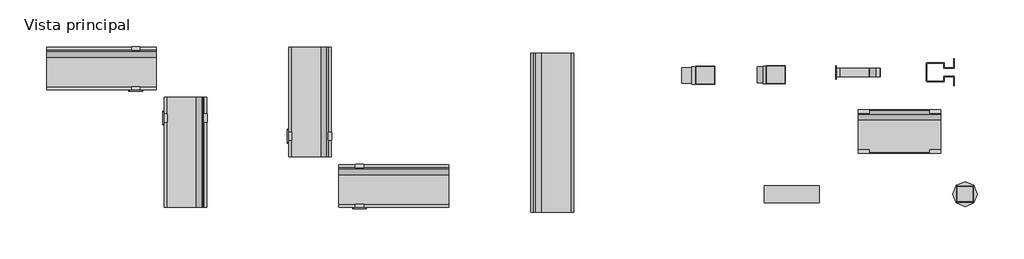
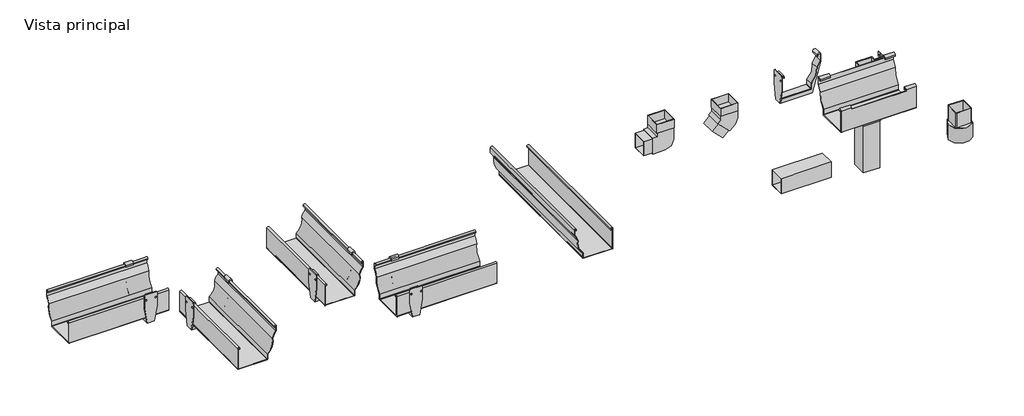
# One storey, incomplete: 17 pipe fittings.
"""IFC4 building model written with IfcOpenShell, lengths in millimetres."""

from ifc_helpers import new_model, si_unit, origin, place, context, project, spatial, transform, mapped, element, save
from components import var_139db1cd, var_9f9eca47, var_91e2d34d, var_6c80722c, var_38eae97e, var_41a2b926, var_7c6a0a23, var_3d1434b5, var_5ad48b10

model = new_model("IFC4")

# Units and contexts
model_context = context("Model", 3, world=origin())
ifc_project = project(units=[si_unit("LENGTHUNIT", "METRE", prefix="MILLI")], contexts=[model_context])

# Site, building, storey
site = spatial("IfcSite", under=ifc_project)
building = spatial("IfcBuilding", under=site)
storey = spatial("IfcBuildingStorey", under=building, Name="Vista principal", Elevation=0.0)

# Pipe fittings
placement = place(None, origin())
var_shape = var_139db1cd(model_context)
element("IfcPipeFitting", 1, ObjectType="PlastigamaWavin_Unionesdetubería_CanalesyBajantesZ_NoUsarUnióndeCanalBajante : Var.", at=placement, inside=storey, context=model_context, shape_type="MappedRepresentation", body=[
    mapped(var_shape, transform((4456.5998132, 1644.9188213, 0.0), x_axis=(0.0, 1.0, 0.0), y_axis=(-1.0, 0.0, 0.0), z_axis=(0.0, 0.0, 1.0))),
])
var_2_shape = var_9f9eca47(model_context)
element("IfcPipeFitting", 2, ObjectType="PlastigamaWavin_Unionesdetubería_CanalesyBajantes_Codo45deBajante : Var.", at=placement, inside=storey, context=model_context, shape_type="MappedRepresentation", body=[
    mapped(var_2_shape, transform((3855.7692615, 1851.6812573, 0.0), x_axis=(1.0, 0.0, 0.0), y_axis=(0.0, 1.0, 0.0), z_axis=(0.0, 0.0, 1.0))),
])
var_3_shape = var_91e2d34d(model_context)
element("IfcPipeFitting", 3, ObjectType="PlastigamaWavin_Unionesdetubería_CanalesyBajantes_Codo90deBajante : Var.", at=placement, inside=storey, context=model_context, shape_type="MappedRepresentation", body=[
    mapped(var_3_shape, transform((3599.5018318, 1849.7738654, 0.0), x_axis=(1.0, 0.0, 0.0), y_axis=(0.0, 1.0, 0.0), z_axis=(0.0, 0.0, 1.0))),
])
var_4_shape = var_6c80722c(model_context)
element("IfcPipeFitting", 4, ObjectType="PlastigamaWavin_Unionesdetubería_CanalesyBajantes_Bajante : Var.", at=placement, inside=storey, context=model_context, shape_type="MappedRepresentation", body=[
    mapped(var_4_shape, transform((3813.5953147, 1417.1918661, 0.0), x_axis=(0.0, 0.0, 1.0), y_axis=(0.0, 1.0, 0.0), z_axis=(-1.0, 0.0, 0.0))),
])
var_5_shape = var_38eae97e(model_context)
element("IfcPipeFitting", 5, ObjectType="PlastigamaWavin_Unionesdetubería_CanalesyBajantes_SoportedeBajante : Var.", at=placement, inside=storey, context=model_context, shape_type="MappedRepresentation", body=[
    mapped(var_5_shape, transform((4437.1438602, 1861.1060218, 0.0), x_axis=(0.0, -1.0, 0.0), y_axis=(1.0, 0.0, 0.0), z_axis=(0.0, 0.0, 1.0))),
])
var_6_shape = var_41a2b926(model_context)
element("IfcPipeFitting", 6, ObjectType="PlastigamaWavin_Unionesdetubería_CanalesyBajantes_AdaptadordeBajante : Var.", at=placement, inside=storey, context=model_context, shape_type="MappedRepresentation", body=[
    mapped(var_6_shape, transform((4545.5946412, 1417.1918661, 0.0), x_axis=(1.0, 0.0, 0.0), y_axis=(0.0, 1.0, 0.0), z_axis=(0.0, 0.0, 1.0))),
])
var_7_shape = var_7c6a0a23(model_context)
element("IfcPipeFitting", 7, ObjectType="PlastigamaWavin_Unionesdetubería_CanalesyBajantes_SoportedeCanal : Var.", at=placement, inside=storey, context=model_context, shape_type="MappedRepresentation", body=[
    mapped(var_7_shape, transform((4156.1593668, 1845.0333312, 0.0), x_axis=(1.0, 0.0, 0.0), y_axis=(0.0, 1.0, 0.0), z_axis=(0.0, 0.0, 1.0))),
])
element("IfcPipeFitting", 8, ObjectType="PlastigamaWavin_Unionesdetubería_CanalesyBajantesZ_NoUsarSoportePlástico : Var.", at=placement, inside=storey, context=model_context, shape_type="MappedRepresentation", body=[
    mapped(var_7_shape, transform((2355.3304153, 1447.1918661, 0.0), x_axis=(0.0, 1.0, 0.0), y_axis=(-1.0, 0.0, 0.0), z_axis=(0.0, 0.0, 1.0))),
])
element("IfcPipeFitting", 9, ObjectType="PlastigamaWavin_Unionesdetubería_CanalesyBajantesZ_NoUsarSoportePlástico : Var.", at=placement, inside=storey, context=model_context, shape_type="MappedRepresentation", body=[
    mapped(var_7_shape, transform((2159.8294777, 1612.6918661, 0.0), x_axis=(1.0, 0.0, 0.0), y_axis=(0.0, 1.0, 0.0), z_axis=(0.0, 0.0, 1.0))),
])
element("IfcPipeFitting", 10, ObjectType="PlastigamaWavin_Unionesdetubería_CanalesyBajantesZ_NoUsarSoportePlástico : Var.", at=placement, inside=storey, context=model_context, shape_type="MappedRepresentation", body=[
    mapped(var_7_shape, transform((1540.3511262, 1875.1918661, 0.0), x_axis=(0.0, 1.0, 0.0), y_axis=(-1.0, 0.0, 0.0), z_axis=(0.0, 0.0, 1.0))),
])
element("IfcPipeFitting", 11, ObjectType="PlastigamaWavin_Unionesdetubería_CanalesyBajantesZ_NoUsarSoportePlástico : Var.", at=placement, inside=storey, context=model_context, shape_type="MappedRepresentation", body=[
    mapped(var_7_shape, transform((1705.8547822, 1679.6900704, 0.0), x_axis=(1.0, 0.0, 0.0), y_axis=(0.0, 1.0, 0.0), z_axis=(0.0, 0.0, 1.0))),
])
var_8_shape = var_3d1434b5(model_context)
element("IfcPipeFitting", 12, ObjectType="PlastigamaWavin_Unionesdetubería_CanalesyBajantesZ_NoUsarCanal : Var.", at=placement, inside=storey, context=model_context, shape_type="MappedRepresentation", body=[
    mapped(var_8_shape, transform((2665.3304153, 1447.1918661, 0.0), x_axis=(0.0, 1.0, 0.0), y_axis=(-1.0, 0.0, 0.0), z_axis=(0.0, 0.0, 1.0))),
])
element("IfcPipeFitting", 13, ObjectType="PlastigamaWavin_Unionesdetubería_CanalesyBajantesZ_NoUsarCanal : Var.", at=placement, inside=storey, context=model_context, shape_type="MappedRepresentation", body=[
    mapped(var_8_shape, transform((2159.8294777, 1552.6918661, 0.0), x_axis=(1.0, 0.0, 0.0), y_axis=(0.0, 1.0, 0.0), z_axis=(0.0, 0.0, 1.0))),
])
element("IfcPipeFitting", 14, ObjectType="PlastigamaWavin_Unionesdetubería_CanalesyBajantesZ_NoUsarCanal : Var.", at=placement, inside=storey, context=model_context, shape_type="MappedRepresentation", body=[
    mapped(var_8_shape, transform((1600.3511262, 1875.1918661, 0.0), x_axis=(0.0, 1.0, 0.0), y_axis=(-1.0, 0.0, 0.0), z_axis=(0.0, 0.0, 1.0))),
])
element("IfcPipeFitting", 15, ObjectType="PlastigamaWavin_Unionesdetubería_CanalesyBajantesZ_NoUsarCanal : Var.", at=placement, inside=storey, context=model_context, shape_type="MappedRepresentation", body=[
    mapped(var_8_shape, transform((1705.8547822, 1369.6900704, 0.0), x_axis=(1.0, 0.0, 0.0), y_axis=(0.0, 1.0, 0.0), z_axis=(0.0, 0.0, 1.0))),
])
var_9_shape = var_5ad48b10(model_context)
element("IfcPipeFitting", 16, ObjectType="PlastigamaWavin_Unionesdetubería_CanalesyBajantesZ_NoUsarCanal : Var.", at=placement, inside=storey, context=model_context, shape_type="MappedRepresentation", body=[
    mapped(var_9_shape, transform((3042.0383192, 1931.2274, 0.0), x_axis=(-1.0, 0.0, 0.0), y_axis=(0.0, -1.0, 0.0), z_axis=(0.0, 0.0, 1.0))),
])
element("IfcPipeFitting", 17, ObjectType="PlastigamaWavin_Unionesdetubería_CanalesyBajantesZ_NoUsarBajante : Var.", at=placement, inside=storey, context=model_context, shape_type="MappedRepresentation", body=[
    mapped(var_4_shape, transform((4306.5998132, 1644.9188213, -42.98), x_axis=(-1.0, 0.0, 0.0), y_axis=(0.0, -1.0, 0.0), z_axis=(0.0, 0.0, 1.0))),
])

save(model, "model.ifc")
